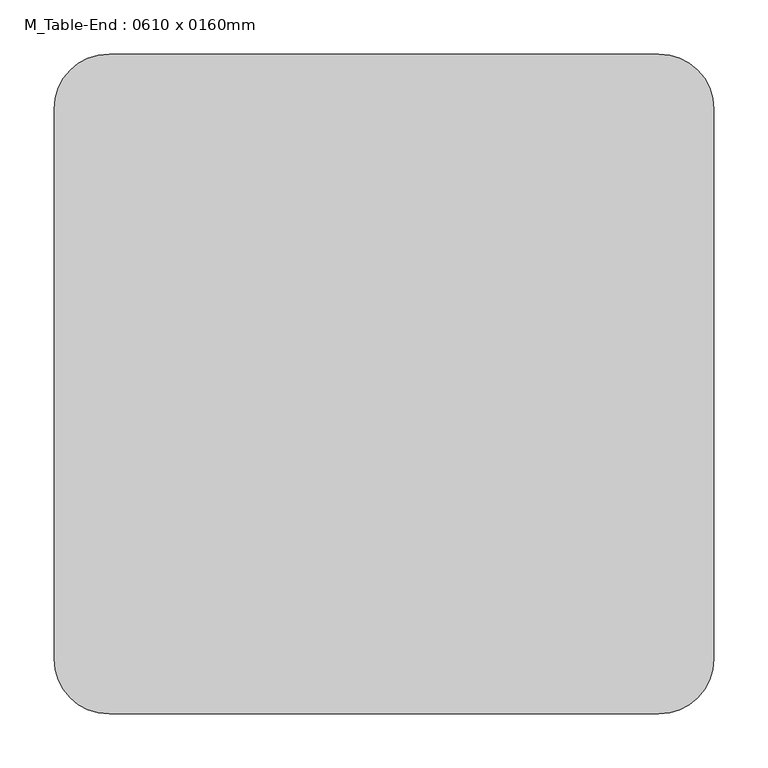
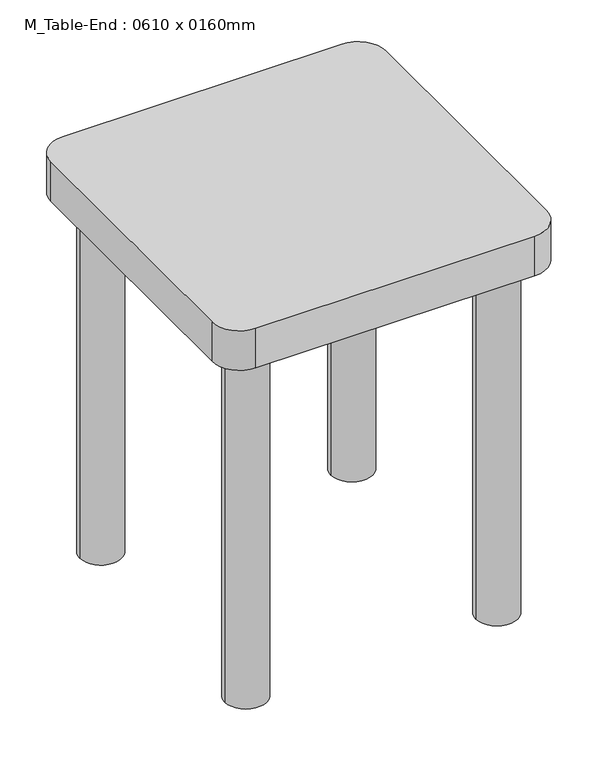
"""IFC4 building model written with IfcOpenShell, lengths in millimetres: furniture geometry, M_Table-End : 0610 x 0160mm."""

from ifc_helpers import new_model, si_unit, point, frame, frame_2d, origin, origin_with_axes, place, context, project, spatial, polyline, circle_curve, trimmed, segment, composite_curve, outline, extrude, source, transform, mapped, element, save


def m_table_end_0610_x_0160mm_ccef8dc9(model_context):
    return source(origin(), model_context, "Body", "SweptSolid", [
        extrude(outline(composite_curve([segment(trimmed(circle_curve(frame_2d((562.9336303, 101.8)), 50.8), [point((562.9336303, 152.6))], [point((613.7336303, 101.8))], False, "CARTESIAN"), True, "CONTINUOUS"), segment(polyline([(613.7336303, 101.8), (613.7336303, -406.6)]), True, "CONTINUOUS"), segment(trimmed(circle_curve(frame_2d((562.9336303, -406.6)), 50.8), [point((613.7336303, -406.6))], [point((562.9336303, -457.4))], False, "CARTESIAN"), True, "CONTINUOUS"), segment(polyline([(562.9336303, -457.4), (54.5336303, -457.4)]), True, "CONTINUOUS"), segment(trimmed(circle_curve(frame_2d((54.5336303, -406.6)), 50.8), [point((54.5336303, -457.4))], [point((3.7336303, -406.6))], False, "CARTESIAN"), True, "CONTINUOUS"), segment(polyline([(3.7336303, -406.6), (3.7336303, 101.8)]), True, "CONTINUOUS"), segment(trimmed(circle_curve(frame_2d((54.5336303, 101.8)), 50.8), [point((3.7336303, 101.8))], [point((54.5336303, 152.6))], False, "CARTESIAN"), True, "CONTINUOUS"), segment(polyline([(54.5336303, 152.6), (562.9336303, 152.6)]), True, "CONTINUOUS")], self_intersect=False)), frame((0.0, 0.0, 685.8), z_axis=(0.0, 0.0, 1.0), x_axis=(1.0, 0.0, 0.0)), (0.0, 0.0, 1.0), 76.2),
        extrude(outline(composite_curve([segment(trimmed(circle_curve(frame_2d((79.9336303, -381.2)), 38.1), [point((41.8336303, -381.2))], [point((118.0336303, -381.2))], False, "CARTESIAN"), True, "CONTINUOUS"), segment(trimmed(circle_curve(frame_2d((79.9336303, -381.2)), 38.1), [point((118.0336303, -381.2))], [point((41.8336303, -381.2))], False, "CARTESIAN"), True, "CONTINUOUS")], self_intersect=False)), origin_with_axes(), (0.0, 0.0, 1.0), 685.8),
        extrude(outline(composite_curve([segment(trimmed(circle_curve(frame_2d((79.9336303, 76.4)), 38.1), [point((41.8336303, 76.4))], [point((118.0336303, 76.4))], False, "CARTESIAN"), True, "CONTINUOUS"), segment(trimmed(circle_curve(frame_2d((79.9336303, 76.4)), 38.1), [point((118.0336303, 76.4))], [point((41.8336303, 76.4))], False, "CARTESIAN"), True, "CONTINUOUS")], self_intersect=False)), origin_with_axes(), (0.0, 0.0, 1.0), 685.8),
        extrude(outline(composite_curve([segment(trimmed(circle_curve(frame_2d((537.5336303, 76.4)), 38.1), [point((499.4336303, 76.4))], [point((575.6336303, 76.4))], False, "CARTESIAN"), True, "CONTINUOUS"), segment(trimmed(circle_curve(frame_2d((537.5336303, 76.4)), 38.1), [point((575.6336303, 76.4))], [point((499.4336303, 76.4))], False, "CARTESIAN"), True, "CONTINUOUS")], self_intersect=False)), origin_with_axes(), (0.0, 0.0, 1.0), 685.8),
        extrude(outline(composite_curve([segment(trimmed(circle_curve(frame_2d((537.5336303, -381.2)), 38.1), [point((499.4336303, -381.2))], [point((575.6336303, -381.2))], False, "CARTESIAN"), True, "CONTINUOUS"), segment(trimmed(circle_curve(frame_2d((537.5336303, -381.2)), 38.1), [point((575.6336303, -381.2))], [point((499.4336303, -381.2))], False, "CARTESIAN"), True, "CONTINUOUS")], self_intersect=False)), origin_with_axes(), (0.0, 0.0, 1.0), 685.8),
    ])


if __name__ == "__main__":
    model = new_model("IFC4")
    model_context = context("Model", 3, world=origin())
    ifc_project = project(units=[si_unit("LENGTHUNIT", "METRE", prefix="MILLI")], contexts=[model_context])
    site = spatial("IfcSite", under=ifc_project)
    building = spatial("IfcBuilding", under=site)
    placement = place(None, origin())
    m_table_end_0610_x_0160mm_shape = m_table_end_0610_x_0160mm_ccef8dc9(model_context)
    element("IfcFurniture", 1, ObjectType="M_Table-End : 0610 x 0160mm", at=placement, inside=building, context=model_context, shape_type="MappedRepresentation", body=[
        mapped(m_table_end_0610_x_0160mm_shape, transform((0.0, 0.0, 0.0), x_axis=(1.0, 0.0, 0.0), y_axis=(0.0, 1.0, 0.0), z_axis=(0.0, 0.0, 1.0))),
    ])
    save(model, "model.ifc")
